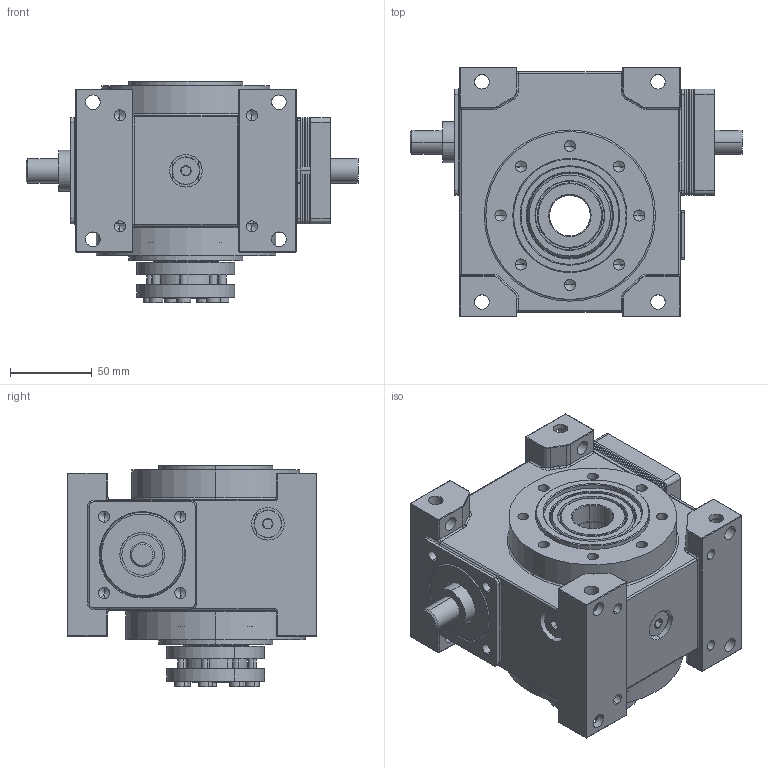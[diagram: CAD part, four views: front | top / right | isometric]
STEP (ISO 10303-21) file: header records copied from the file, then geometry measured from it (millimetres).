
FILE_DESCRIPTION (( 'STEP AP203' ), '1' );
FILE_NAME ('EDB45-40-P3- 无电机法兰-双头输入.STEP', '2022-01-11T10:09:27', ( '' ), ( '' ), 'SwSTEP 2.0', 'SolidWorks 2021', '' );
FILE_SCHEMA (( 'CONFIG_CONTROL_DESIGN' ));
Length unit declared in the file: millimetre
Products named in the file (1): EDB45-40-P3- 无电机法兰-双头输入
Bounding box: 203.5 x 153 x 136 mm (x, y, z)
Volume: 1892249.4 mm3; surface area: 284326.3 mm2
Topology: 35 solids, 38 shells, 1924 faces, 5013 edges, 3096 vertices
Faces by surface type: plane 696, cylinder 579, cone 356, torus 277, bspline 14, sphere 2
Entity records: 64707 total; most frequent: CARTESIAN_POINT 17453, DIRECTION 10070, ORIENTED_EDGE 9888, EDGE_CURVE 4944, AXIS2_PLACEMENT_3D 4087, VERTEX_POINT 3096, EDGE_LOOP 2208, CIRCLE 2176
